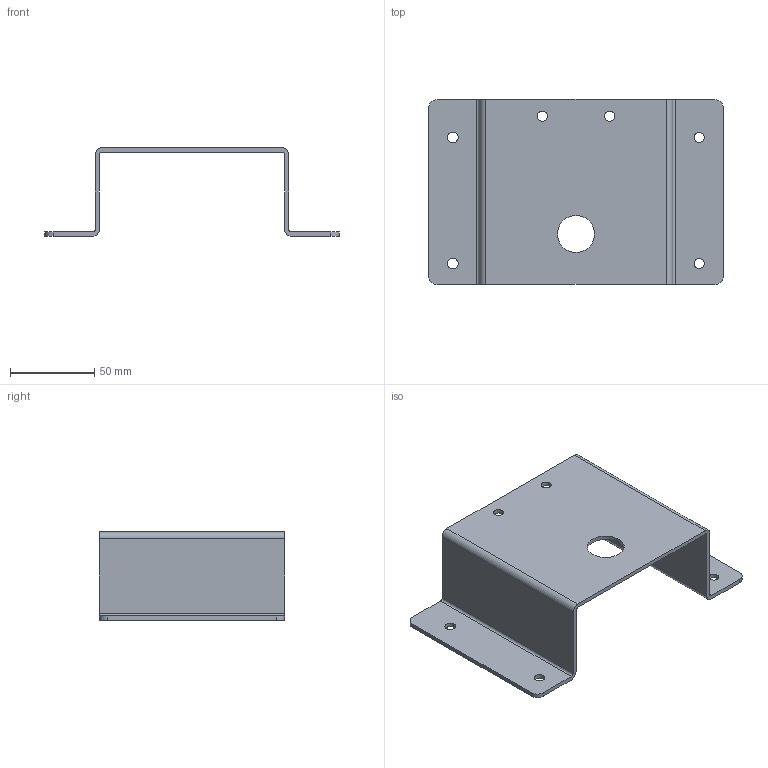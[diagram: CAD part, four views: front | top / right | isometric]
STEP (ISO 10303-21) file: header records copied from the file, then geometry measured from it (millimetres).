
FILE_DESCRIPTION( ( 'Unknown' ), '1' );
FILE_NAME( 'F:/navkite transat/construction/2016/3D ET ASSEMBLAGES/AMI/AMI 07.stp', 'Unknown', ( 'GMA' ), ( 'Unknown' ), 'XStep 1.0', 'Unknown', ' ' );
FILE_SCHEMA( ( 'automotive_design' ) );
Length unit declared in the file: millimetre
Products named in the file (1): 1
Bounding box: 175 x 110 x 52.5 mm (x, y, z)
Volume: 72881.6 mm3; surface area: 60646.2 mm2
Topology: 1 solids, 1 shells, 33 faces, 97 edges, 66 vertices
Faces by surface type: cylinder 19, plane 14
Full cylindrical faces by diameter (mm): 6 x4, 6.35 x2, 22 x1
Entity records: 1358 total; most frequent: DIRECTION 192, CARTESIAN_POINT 182, ORIENTED_EDGE 172, EDGE_CURVE 86, AXIS2_PLACEMENT_3D 72, VERTEX_POINT 62, EDGE_LOOP 54, LINE 48
